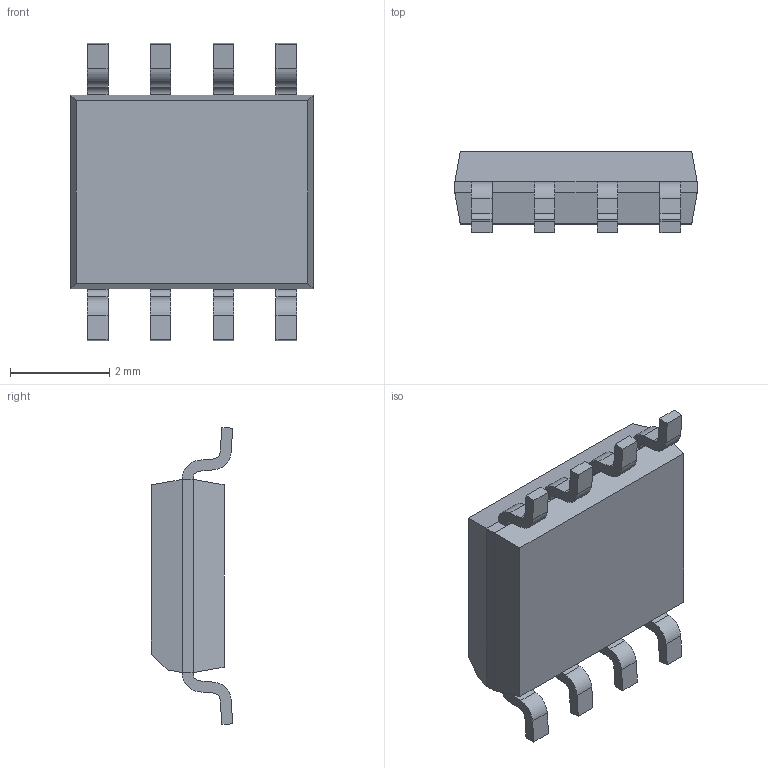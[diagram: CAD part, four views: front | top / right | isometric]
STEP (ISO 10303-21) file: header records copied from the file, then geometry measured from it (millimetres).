
FILE_DESCRIPTION((''),'2;1');
FILE_NAME('SOIC8_NB_MLX_POD_ASS_ASM','2022-09-08T10:56:17',('wvn'),(''),'CREO PARAMETRIC BY PTC INC, 2021424','CREO PARAMETRIC BY PTC INC, 2021424','');
FILE_SCHEMA(('CONFIG_CONTROL_DESIGN','SHAPE_APPEARANCE_LAYERS_GROUPS'));
Length unit declared in the file: millimetre
Products named in the file (3): SOIC8_NB_MLX_POD_BODY; SOIC_LEG; SOIC8_NB_MLX_POD_ASS_ASM
Assembly tree (9 placements, depth 2):
  SOIC8_NB_MLX_POD_ASS_ASM
    SOIC8_NB_MLX_POD_BODY
    SOIC_LEG  x8
Bounding box: 4.89 x 1.65 x 6 mm (x, y, z)
Volume: 27.8 mm3; surface area: 76.8 mm2
Topology: 9 solids, 9 shells, 127 faces, 319 edges, 210 vertices
Faces by surface type: plane 95, cylinder 32
Entity records: 962 total; most frequent: DIRECTION 157, CARTESIAN_POINT 150, ORIENTED_EDGE 134, EDGE_CURVE 67, VECTOR 59, LINE 59, AXIS2_PLACEMENT_3D 49, VERTEX_POINT 42
